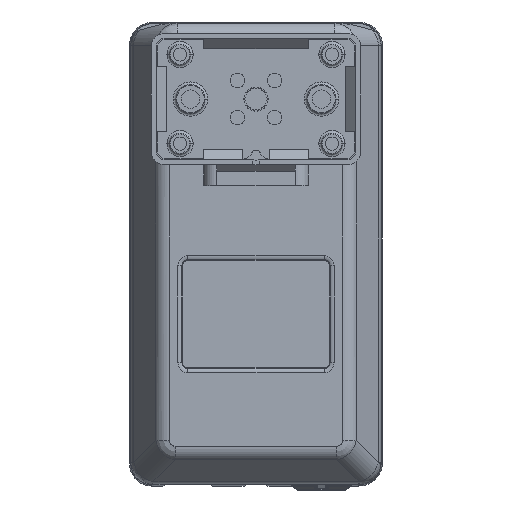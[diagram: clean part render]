
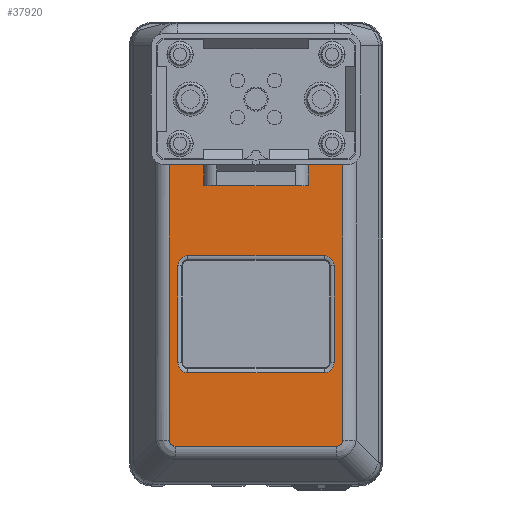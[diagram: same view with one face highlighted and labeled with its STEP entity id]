
A CAD part, front view. The second image highlights one B-rep face of the part: STEP entity #37920.
In plain terms, the highlighted planar face has unit normal (0, -1, 0) as drawn and (0, 1, 0) by its records, which use the part's own axes.
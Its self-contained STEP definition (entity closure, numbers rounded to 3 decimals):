
#22765=DIRECTION('',(0.,0.,1.));
#22766=VECTOR('',#22765,109.034);
#22767=CARTESIAN_POINT('',(-33.028,41.5,-159.213));
#22768=LINE('',#22767,#22766);
#22793=CARTESIAN_POINT('',(-28.5,41.5,
-42.4));
#22794=DIRECTION('',(0.,1.,0.));
#22795=DIRECTION('',(0.,0.,-1.));
#22796=AXIS2_PLACEMENT_3D('',#22793,#22794,#22795);
#22798=CARTESIAN_POINT('',(-33.028,41.5,-159.213));
#22799=CARTESIAN_POINT('',(-33.028,41.5,-159.3));
#22800=CARTESIAN_POINT('',(-33.019,41.5,-159.481));
#22801=CARTESIAN_POINT('',(-32.977,41.5,-159.747));
#22802=CARTESIAN_POINT('',(-32.904,41.5,-160.008));
#22803=CARTESIAN_POINT('',(-32.802,41.5,-160.253));
#22804=CARTESIAN_POINT('',(-32.672,41.5,-160.478));
#22805=CARTESIAN_POINT('',(-32.515,41.5,-160.683));
#22806=CARTESIAN_POINT('',(-32.334,41.5,-160.864));
#22807=CARTESIAN_POINT('',(-32.13,41.5,-161.021));
#22808=CARTESIAN_POINT('',(-31.904,41.5,-161.151));
#22809=CARTESIAN_POINT('',(-31.66,41.5,-161.253));
#22810=CARTESIAN_POINT('',(-31.399,41.5,-161.326));
#22811=CARTESIAN_POINT('',(-31.132,41.5,-161.369));
#22812=CARTESIAN_POINT('',(-30.95,41.5,-161.378));
#22813=CARTESIAN_POINT('',(-30.863,41.5,-161.378));
#22815=CARTESIAN_POINT('',(30.863,41.5,-161.378));
#22816=CARTESIAN_POINT('',(30.95,41.5,-161.378));
#22817=CARTESIAN_POINT('',(31.132,41.5,-161.369));
#22818=CARTESIAN_POINT('',(31.399,41.5,-161.326));
#22819=CARTESIAN_POINT('',(31.66,41.5,-161.253));
#22820=CARTESIAN_POINT('',(31.904,41.5,-161.151));
#22821=CARTESIAN_POINT('',(32.13,41.5,-161.021));
#22822=CARTESIAN_POINT('',(32.334,41.5,-160.864));
#22823=CARTESIAN_POINT('',(32.515,41.5,-160.683));
#22824=CARTESIAN_POINT('',(32.672,41.5,-160.478));
#22825=CARTESIAN_POINT('',(32.802,41.5,-160.253));
#22826=CARTESIAN_POINT('',(32.904,41.5,-160.008));
#22827=CARTESIAN_POINT('',(32.977,41.5,-159.747));
#22828=CARTESIAN_POINT('',(33.019,41.5,-159.481));
#22829=CARTESIAN_POINT('',(33.028,41.5,-159.3));
#22830=CARTESIAN_POINT('',(33.028,41.5,-159.213));
#22832=CARTESIAN_POINT('',(28.5,41.5,
-42.4));
#22833=DIRECTION('',(0.,1.,0.));
#22834=DIRECTION('',(0.503,0.,-0.864));
#22835=AXIS2_PLACEMENT_3D('',#22832,#22833,#22834);
#22837=CARTESIAN_POINT('',(26.,41.5,-129.5));
#22838=DIRECTION('',(0.,1.,0.));
#22839=DIRECTION('',(1.,0.,0.));
#22840=AXIS2_PLACEMENT_3D('',#22837,#22838,#22839);
#22842=CARTESIAN_POINT('',(-26.,41.5,-129.5));
#22843=DIRECTION('',(0.,1.,0.));
#22844=DIRECTION('',(0.,0.,-1.));
#22845=AXIS2_PLACEMENT_3D('',#22842,#22843,#22844);
#22847=CARTESIAN_POINT('',(-26.,41.5,-92.5));
#22848=DIRECTION('',(0.,1.,0.));
#22849=DIRECTION('',(-1.,0.,0.));
#22850=AXIS2_PLACEMENT_3D('',#22847,#22848,#22849);
#22852=CARTESIAN_POINT('',(26.,41.5,-92.5));
#22853=DIRECTION('',(0.,1.,0.));
#22854=DIRECTION('',(0.,0.,1.));
#22855=AXIS2_PLACEMENT_3D('',#22852,#22853,#22854);
#22857=DIRECTION('',(1.,0.,0.));
#22858=VECTOR('',#22857,57.);
#22859=CARTESIAN_POINT('',(-28.5,41.5,-51.4));
#22860=LINE('',#22859,#22858);
#22904=DIRECTION('',(0.,0.,-1.));
#22905=VECTOR('',#22904,109.034);
#22906=CARTESIAN_POINT('',(33.028,41.5,
-50.178));
#22907=LINE('',#22906,#22905);
#22943=DIRECTION('',(-1.,0.,0.));
#22944=VECTOR('',#22943,61.725);
#22945=CARTESIAN_POINT('',(30.863,41.5,-161.378));
#22946=LINE('',#22945,#22944);
#23097=DIRECTION('',(0.,0.,1.));
#23098=VECTOR('',#23097,37.);
#23099=CARTESIAN_POINT('',(29.803,41.5,-129.5));
#23100=LINE('',#23099,#23098);
#23120=DIRECTION('',(-1.,0.,0.));
#23121=VECTOR('',#23120,52.);
#23122=CARTESIAN_POINT('',(26.,41.5,-88.697));
#23123=LINE('',#23122,#23121);
#23143=DIRECTION('',(0.,0.,-1.));
#23144=VECTOR('',#23143,37.);
#23145=CARTESIAN_POINT('',(-29.803,41.5,-92.5));
#23146=LINE('',#23145,#23144);
#23166=DIRECTION('',(1.,0.,0.));
#23167=VECTOR('',#23166,52.);
#23168=CARTESIAN_POINT('',(-26.,41.5,-133.303));
#23169=LINE('',#23168,#23167);
#25647=CARTESIAN_POINT('',(-28.5,41.5,-51.4));
#25648=CARTESIAN_POINT('',(28.5,41.5,-51.4));
#25649=VERTEX_POINT('',#25647);
#25650=VERTEX_POINT('',#25648);
#25651=CARTESIAN_POINT('',(-33.028,41.5,-50.178));
#25652=VERTEX_POINT('',#25651);
#25653=CARTESIAN_POINT('',(-33.028,41.5,-159.213));
#25654=VERTEX_POINT('',#25653);
#25655=VERTEX_POINT('',#22813);
#25656=CARTESIAN_POINT('',(30.863,41.5,-161.378));
#25657=VERTEX_POINT('',#25656);
#25658=VERTEX_POINT('',#22830);
#25659=CARTESIAN_POINT('',(33.028,41.5,
-50.178));
#25660=VERTEX_POINT('',#25659);
#25661=CARTESIAN_POINT('',(29.803,41.5,-129.5));
#25662=CARTESIAN_POINT('',(26.,41.5,-133.303));
#25663=VERTEX_POINT('',#25661);
#25664=VERTEX_POINT('',#25662);
#25665=CARTESIAN_POINT('',(-26.,41.5,-133.303));
#25666=VERTEX_POINT('',#25665);
#25667=CARTESIAN_POINT('',(-29.803,41.5,-129.5));
#25668=VERTEX_POINT('',#25667);
#25669=CARTESIAN_POINT('',(-29.803,41.5,-92.5));
#25670=VERTEX_POINT('',#25669);
#25671=CARTESIAN_POINT('',(-26.,41.5,-88.697));
#25672=VERTEX_POINT('',#25671);
#25673=CARTESIAN_POINT('',(26.,41.5,-88.697));
#25674=VERTEX_POINT('',#25673);
#25675=CARTESIAN_POINT('',(29.803,41.5,-92.5));
#25676=VERTEX_POINT('',#25675);
#37881=CARTESIAN_POINT('',(36.492,41.5,0.));
#37882=DIRECTION('',(0.,1.,0.));
#37883=DIRECTION('',(-1.,0.,0.));
#37884=AXIS2_PLACEMENT_3D('',#37881,#37882,#37883);
#37885=PLANE('',#37884);
#37887=ORIENTED_EDGE('',*,*,#37886,.F.);
#37888=ORIENTED_EDGE('',*,*,#37857,.T.);
#37889=ORIENTED_EDGE('',*,*,#37815,.F.);
#37891=ORIENTED_EDGE('',*,*,#37890,.T.);
#37893=ORIENTED_EDGE('',*,*,#37892,.F.);
#37895=ORIENTED_EDGE('',*,*,#37894,.T.);
#37897=ORIENTED_EDGE('',*,*,#37896,.F.);
#37899=ORIENTED_EDGE('',*,*,#37898,.T.);
#37900=EDGE_LOOP('',(#37887,#37888,#37889,#37891,#37893,#37895,#37897,#37899));
#37901=FACE_OUTER_BOUND('',#37900,.F.);
#37903=ORIENTED_EDGE('',*,*,#37902,.T.);
#37905=ORIENTED_EDGE('',*,*,#37904,.F.);
#37907=ORIENTED_EDGE('',*,*,#37906,.T.);
#37909=ORIENTED_EDGE('',*,*,#37908,.F.);
#37911=ORIENTED_EDGE('',*,*,#37910,.T.);
#37913=ORIENTED_EDGE('',*,*,#37912,.F.);
#37915=ORIENTED_EDGE('',*,*,#37914,.T.);
#37917=ORIENTED_EDGE('',*,*,#37916,.F.);
#37918=EDGE_LOOP('',(#37903,#37905,#37907,#37909,#37911,#37913,#37915,#37917));
#37919=FACE_BOUND('',#37918,.F.);
#22797=CIRCLE('',#22796,9.);
#22814=B_SPLINE_CURVE_WITH_KNOTS('',3,(#22798,#22799,#22800,#22801,#22802,
#22803,#22804,#22805,#22806,#22807,#22808,#22809,#22810,#22811,#22812,#22813),
.UNSPECIFIED.,.F.,.F.,(4,1,1,1,1,1,1,1,1,1,1,1,1,4),(0.,0.072,
0.151,0.229,0.307,0.384,
0.461,0.538,0.615,0.692,
0.77,0.848,0.927,1.),.UNSPECIFIED.);
#22831=B_SPLINE_CURVE_WITH_KNOTS('',3,(#22815,#22816,#22817,#22818,#22819,
#22820,#22821,#22822,#22823,#22824,#22825,#22826,#22827,#22828,#22829,#22830),
.UNSPECIFIED.,.F.,.F.,(4,1,1,1,1,1,1,1,1,1,1,1,1,4),(0.,0.073,
0.152,0.23,0.308,0.385,
0.462,0.539,0.616,0.693,
0.771,0.849,0.928,1.),.UNSPECIFIED.);
#22836=CIRCLE('',#22835,9.);
#22841=CIRCLE('',#22840,3.803);
#22846=CIRCLE('',#22845,3.803);
#22851=CIRCLE('',#22850,3.803);
#22856=CIRCLE('',#22855,3.803);
#37815=EDGE_CURVE('',#25654,#25652,#22768,.T.);
#37857=EDGE_CURVE('',#25649,#25652,#22797,.T.);
#37886=EDGE_CURVE('',#25649,#25650,#22860,.T.);
#37890=EDGE_CURVE('',#25654,#25655,#22814,.T.);
#37892=EDGE_CURVE('',#25657,#25655,#22946,.T.);
#37894=EDGE_CURVE('',#25657,#25658,#22831,.T.);
#37896=EDGE_CURVE('',#25660,#25658,#22907,.T.);
#37898=EDGE_CURVE('',#25660,#25650,#22836,.T.);
#37902=EDGE_CURVE('',#25663,#25664,#22841,.T.);
#37904=EDGE_CURVE('',#25666,#25664,#23169,.T.);
#37906=EDGE_CURVE('',#25666,#25668,#22846,.T.);
#37908=EDGE_CURVE('',#25670,#25668,#23146,.T.);
#37910=EDGE_CURVE('',#25670,#25672,#22851,.T.);
#37912=EDGE_CURVE('',#25674,#25672,#23123,.T.);
#37914=EDGE_CURVE('',#25674,#25676,#22856,.T.);
#37916=EDGE_CURVE('',#25663,#25676,#23100,.T.);
#37920=ADVANCED_FACE('',(#37901,#37919),#37885,.T.);
